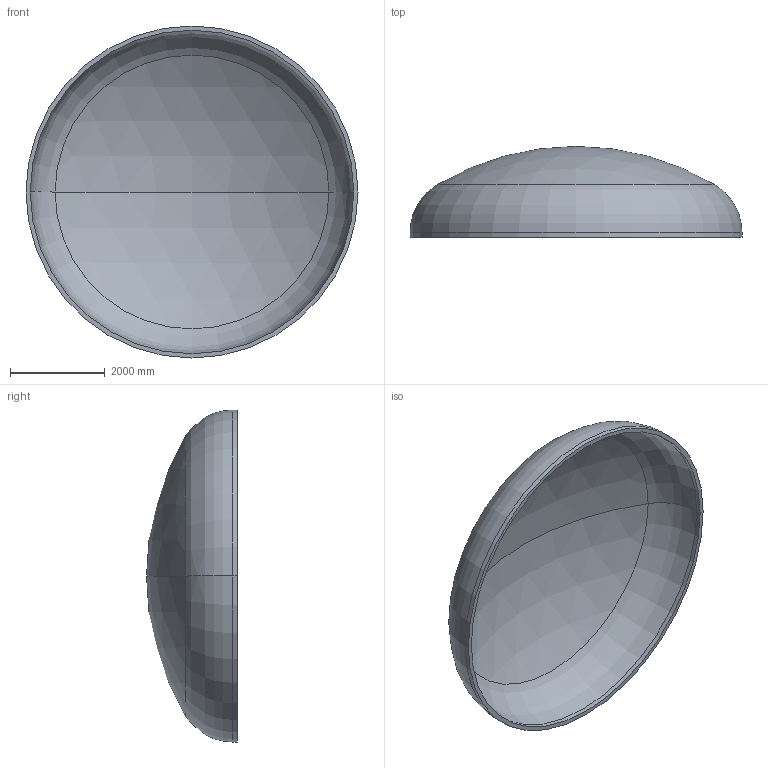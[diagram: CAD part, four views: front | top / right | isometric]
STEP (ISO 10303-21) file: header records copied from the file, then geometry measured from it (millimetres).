
FILE_DESCRIPTION (( 'STEP AP203' ), '1' );
FILE_NAME ('DIN 28013 Korbbogenform_-_Boden DIN 28013 - 7000 x 100 - I - s=90.step', '2016-07-04T10:49:37', ( '' ), ( '' ), 'SwSTEP 2.0', 'SolidWorks 2013', '' );
FILE_SCHEMA (( 'CONFIG_CONTROL_DESIGN' ));
Length unit declared in the file: millimetre
Products named in the file (1): DIN 28013 Korbbogenform_-_Boden DIN 28013 - 7000 x 100 - I - s=90
Bounding box: 7000 x 1916.82 x 7000 mm (x, y, z)
Volume: 4913305901.9 mm3; surface area: 111155255 mm2
Topology: 1 solids, 1 shells, 13 faces, 24 edges, 14 vertices
Faces by surface type: torus 4, cylinder 4, sphere 4, plane 1
Entity records: 407 total; most frequent: DIRECTION 72, CARTESIAN_POINT 52, ORIENTED_EDGE 48, AXIS2_PLACEMENT_3D 34, EDGE_CURVE 24, CIRCLE 20, VERTEX_POINT 14, EDGE_LOOP 14
